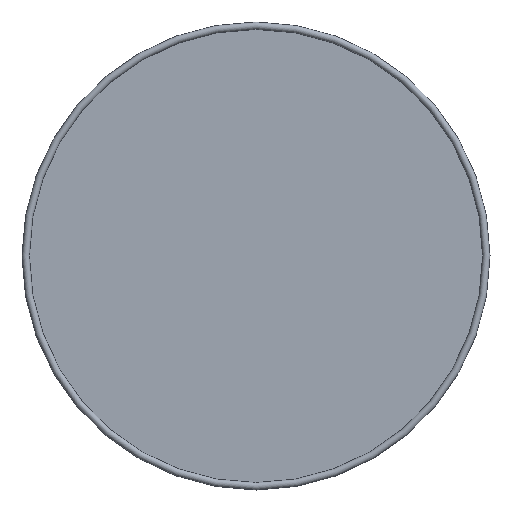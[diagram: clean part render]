
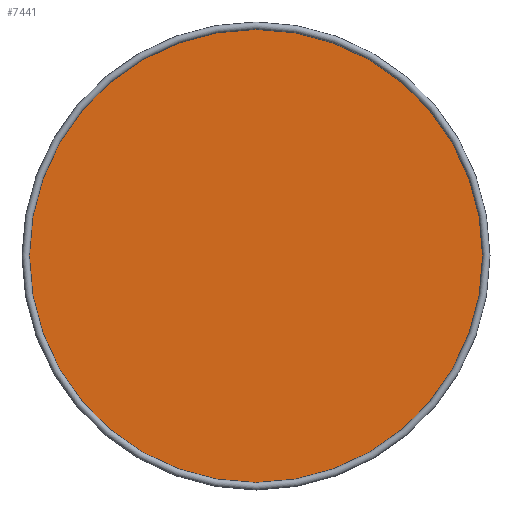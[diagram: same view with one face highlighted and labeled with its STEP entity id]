
A CAD part, front view. The second image highlights one B-rep face of the part: STEP entity #7441.
In plain terms, the highlighted planar face has unit normal (0, -1, 0).
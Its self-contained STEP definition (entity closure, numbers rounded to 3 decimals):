
#1051 = ORIENTED_EDGE ( 'NONE', *, *, #7826, .F. ) ;
#1102 = VERTEX_POINT ( 'NONE', #3533 ) ;
#1355 = DIRECTION ( 'NONE',  ( 0., 0., 1. ) ) ;
#2741 = AXIS2_PLACEMENT_3D ( 'NONE', #8920, #3729, #1355 ) ;
#2923 = PLANE ( 'NONE',  #2741 ) ;
#3533 = CARTESIAN_POINT ( 'NONE',  ( 0., -40.723, 30.559 ) ) ;
#3615 = CARTESIAN_POINT ( 'NONE',  ( 0., -40.723, 0. ) ) ;
#3729 = DIRECTION ( 'NONE',  ( 0., 1., 0. ) ) ;
#4374 = DIRECTION ( 'NONE',  ( 0., 0., 1. ) ) ;
#5193 = DIRECTION ( 'NONE',  ( 0., 1., 0. ) ) ;
#5586 = FACE_OUTER_BOUND ( 'NONE', #6314, .T. ) ;
#6314 = EDGE_LOOP ( 'NONE', ( #1051 ) ) ;
#7441 = ADVANCED_FACE ( 'NONE', ( #5586 ), #2923, .F. ) ;
#7826 = EDGE_CURVE ( 'NONE', #1102, #1102, #10393, .T. ) ;
#8920 = CARTESIAN_POINT ( 'NONE',  ( 0., -40.723, 0. ) ) ;
#10045 = AXIS2_PLACEMENT_3D ( 'NONE', #3615, #5193, #4374 ) ;
#10393 = CIRCLE ( 'NONE', #10045, 30.559 ) ;
